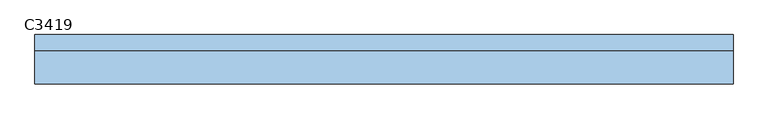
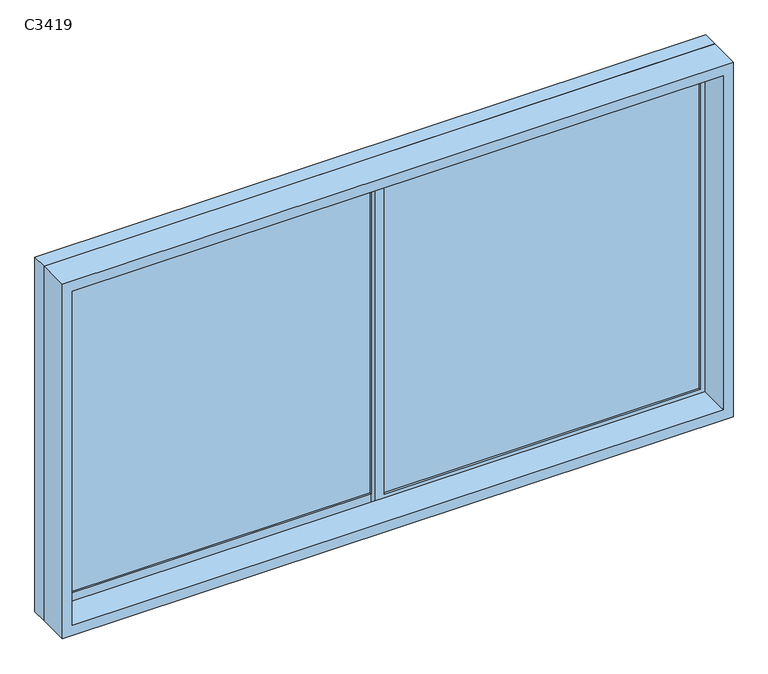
"""IFC4 building model written with IfcOpenShell, lengths in millimetres: window geometry, 推拉窗6 : C3419."""

from ifc_helpers import new_model, si_unit, frame, origin, place, context, project, spatial, polyline, outline, extrude, source, transform, mapped, element, save


def c3419_631f8b4f(model_context):
    return source(origin(), model_context, "Body", "SweptSolid", [
        extrude(outline(polyline([(-1615.475, 23.1265625), (-15.475, 23.1265625), (-15.475, 13.1265625), (-1615.475, 13.1265625), (-1615.475, 23.1265625)])), frame((0.0, 0.0, 675.0), z_axis=(0.0, 0.0, 1.0), x_axis=(1.0, 0.0, 0.0)), (0.0, 0.0, 1.0), 1750.0),
        extrude(outline(polyline([(34.525, -6.8734375), (1634.525, -6.8734375), (1634.525, -16.8734375), (34.525, -16.8734375), (34.525, -6.8734375)])), frame((0.0, 0.0, 675.0), z_axis=(0.0, 0.0, 1.0), x_axis=(1.0, 0.0, 0.0)), (0.0, 0.0, 1.0), 1750.0),
        extrude(outline(polyline([(2500.0, -1690.475), (600.0, -1690.475), (600.0, 1709.525), (2500.0, 1709.525), (2500.0, -1690.475)]), holes=[polyline([(2445.0, 1659.525), (655.0, 1659.525), (655.0, -1640.475), (2445.0, -1640.475), (2445.0, 1659.525)])]), frame((0.0, -186.8734375, 0.0), z_axis=(0.0, 1.0, 0.0), x_axis=(0.0, 0.0, 1.0)), (0.0, 0.0, 1.0), 160.0),
        extrude(outline(polyline([(625.0, 34.525), (2475.0, 34.525), (2475.0, -1665.475), (625.0, -1665.475), (625.0, 34.525)]), holes=[polyline([(675.0, -15.475), (675.0, -1615.475), (2425.0, -1615.475), (2425.0, -15.475), (675.0, -15.475)])]), frame((0.0, 3.1265625, 0.0), z_axis=(0.0, 1.0, 0.0), x_axis=(0.0, 0.0, 1.0)), (0.0, 0.0, 1.0), 30.0),
        extrude(outline(polyline([(2475.0, -15.475), (625.0, -15.475), (625.0, 1684.525), (2475.0, 1684.525), (2475.0, -15.475)]), holes=[polyline([(2425.0, 34.525), (2425.0, 1634.525), (675.0, 1634.525), (675.0, 34.525), (2425.0, 34.525)])]), frame((0.0, -26.8734375, 0.0), z_axis=(0.0, 1.0, 0.0), x_axis=(0.0, 0.0, 1.0)), (0.0, 0.0, 1.0), 30.0),
        extrude(outline(polyline([(2500.0, -1690.475), (600.0, -1690.475), (600.0, 1709.525), (2500.0, 1709.525), (2500.0, -1690.475)]), holes=[polyline([(625.0, -1665.475), (2475.0, -1665.475), (2475.0, 1684.525), (625.0, 1684.525), (625.0, -1665.475)])]), frame((0.0, -26.8734375, 0.0), z_axis=(0.0, 1.0, 0.0), x_axis=(0.0, 0.0, 1.0)), (0.0, 0.0, 1.0), 80.0),
    ])


if __name__ == "__main__":
    model = new_model("IFC4")
    model_context = context("Model", 3, world=origin())
    ifc_project = project(units=[si_unit("LENGTHUNIT", "METRE", prefix="MILLI")], contexts=[model_context])
    site = spatial("IfcSite", under=ifc_project)
    building = spatial("IfcBuilding", under=site)
    placement = place(None, origin())
    c3419_shape = c3419_631f8b4f(model_context)
    element("IfcWindow", 1, ObjectType="推拉窗6 : C3419", at=placement, inside=building, context=model_context, shape_type="MappedRepresentation", body=[
        mapped(c3419_shape, transform((0.0, 0.0, 0.0), x_axis=(1.0, 0.0, 0.0), y_axis=(0.0, 1.0, 0.0), z_axis=(0.0, 0.0, 1.0))),
    ])
    save(model, "model.ifc")
